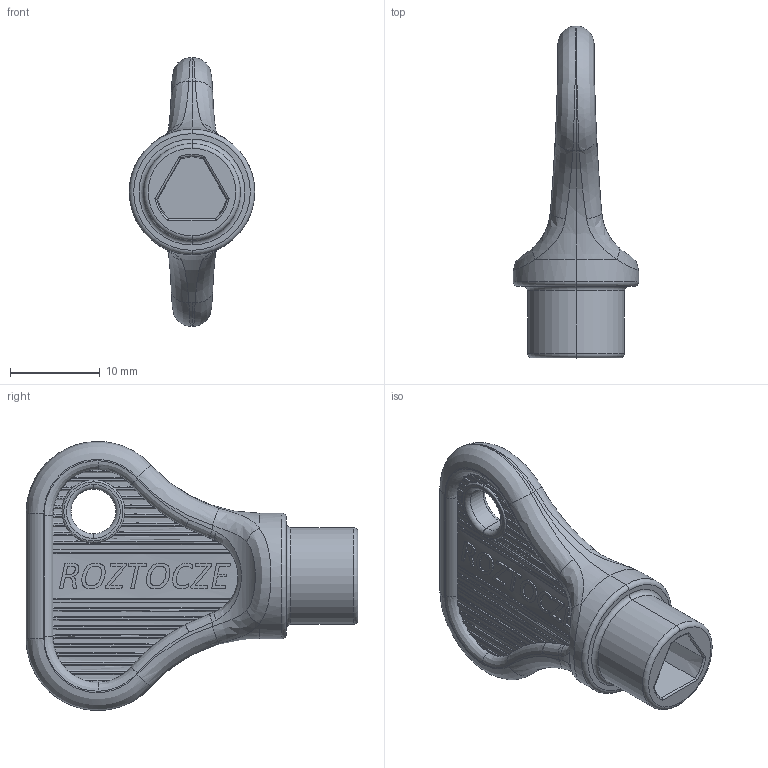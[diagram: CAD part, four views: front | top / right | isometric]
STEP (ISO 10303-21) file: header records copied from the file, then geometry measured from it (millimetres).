
FILE_DESCRIPTION (( 'STEP AP203' ), '1' );
FILE_NAME ('2.KLB-T7.002.STEP', '2022-02-11T12:08:31', ( '' ), ( '' ), 'SwSTEP 2.0', 'SolidWorks 2021', '' );
FILE_SCHEMA (( 'CONFIG_CONTROL_DESIGN' ));
Length unit declared in the file: millimetre
Products named in the file (1): 2.KLB-T7.002
Bounding box: 14 x 37 x 30 mm (x, y, z)
Volume: 2895.8 mm3; surface area: 2356.2 mm2
Topology: 1 solids, 1 shells, 527 faces, 1476 edges, 968 vertices
Faces by surface type: bspline 217, cylinder 160, torus 80, plane 67, cone 3
Entity records: 27014 total; most frequent: CARTESIAN_POINT 15832, ORIENTED_EDGE 2952, EDGE_CURVE 1476, DIRECTION 1412, VERTEX_POINT 968, B_SPLINE_CURVE_WITH_KNOTS 893, AXIS2_PLACEMENT_3D 588, EDGE_LOOP 546
